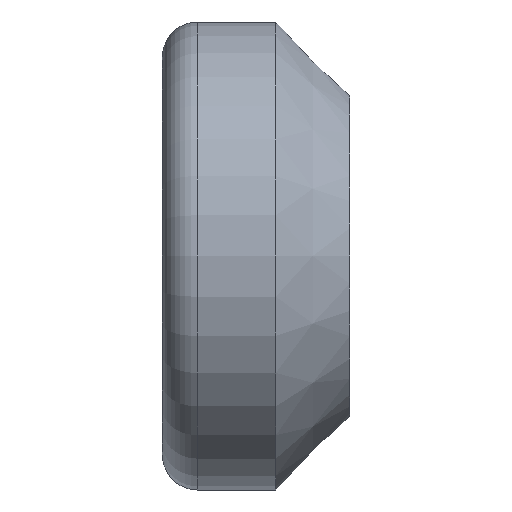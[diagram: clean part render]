
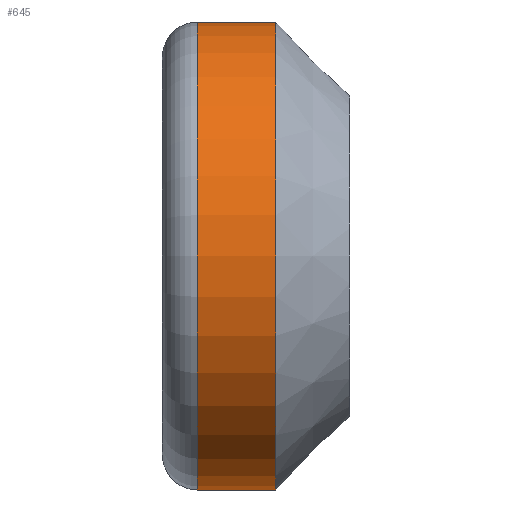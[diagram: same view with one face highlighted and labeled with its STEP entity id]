
A CAD part, left-side view. The second image highlights one B-rep face of the part: STEP entity #645.
In plain terms, the highlighted cylindrical face has radius 10 mm (diameter 20 mm), a full revolution.
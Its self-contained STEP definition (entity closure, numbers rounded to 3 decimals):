
#85=FACE_OUTER_BOUND('',#134,.T.);
#134=EDGE_LOOP('',(#519,#520,#521,#522,#523));
#178=LINE('',#1136,#208);
#208=VECTOR('',#920,10.);
#253=CIRCLE('',#738,10.);
#255=CIRCLE('',#740,10.);
#256=CIRCLE('',#742,10.);
#311=VERTEX_POINT('',#1129);
#312=VERTEX_POINT('',#1130);
#313=VERTEX_POINT('',#1135);
#383=EDGE_CURVE('',#311,#312,#253,.T.);
#385=EDGE_CURVE('',#312,#311,#255,.T.);
#386=EDGE_CURVE('',#311,#313,#178,.T.);
#387=EDGE_CURVE('',#313,#313,#256,.T.);
#519=ORIENTED_EDGE('',*,*,#383,.F.);
#520=ORIENTED_EDGE('',*,*,#386,.T.);
#521=ORIENTED_EDGE('',*,*,#387,.F.);
#522=ORIENTED_EDGE('',*,*,#386,.F.);
#523=ORIENTED_EDGE('',*,*,#385,.F.);
#616=CYLINDRICAL_SURFACE('',#741,10.);
#645=ADVANCED_FACE('',(#85),#616,.T.);
#738=AXIS2_PLACEMENT_3D('',#1131,#912,#913);
#740=AXIS2_PLACEMENT_3D('',#1133,#916,#917);
#741=AXIS2_PLACEMENT_3D('',#1134,#918,#919);
#742=AXIS2_PLACEMENT_3D('',#1137,#921,#922);
#912=DIRECTION('center_axis',(0.,1.,0.));
#913=DIRECTION('ref_axis',(1.,0.,0.));
#916=DIRECTION('center_axis',(0.,1.,0.));
#917=DIRECTION('ref_axis',(1.,0.,0.));
#918=DIRECTION('center_axis',(0.,1.,0.));
#919=DIRECTION('ref_axis',(1.,0.,0.));
#920=DIRECTION('',(0.,-1.,0.));
#921=DIRECTION('center_axis',(0.,-1.,0.));
#922=DIRECTION('ref_axis',(1.,0.,0.));
#1129=CARTESIAN_POINT('',(-148.306,55.345,-22.5));
#1130=CARTESIAN_POINT('',(-138.306,55.345,-12.5));
#1131=CARTESIAN_POINT('Origin',(-138.306,55.345,-22.5));
#1133=CARTESIAN_POINT('Origin',(-138.306,55.345,-22.5));
#1134=CARTESIAN_POINT('Origin',(-138.306,48.845,-22.5));
#1135=CARTESIAN_POINT('',(-148.306,51.995,-22.5));
#1136=CARTESIAN_POINT('',(-148.306,48.845,-22.5));
#1137=CARTESIAN_POINT('Origin',(-138.306,51.995,-22.5));
